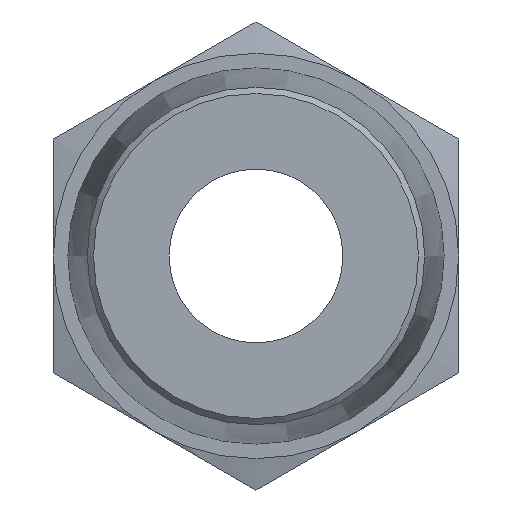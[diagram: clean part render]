
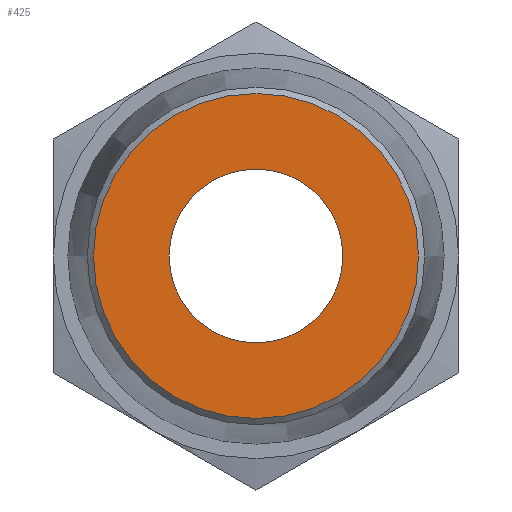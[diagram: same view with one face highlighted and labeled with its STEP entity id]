
A CAD part, front view. The second image highlights one B-rep face of the part: STEP entity #425.
In plain terms, the highlighted planar face has unit normal (0, -1, 0).
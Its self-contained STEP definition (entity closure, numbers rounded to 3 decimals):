
#43=FACE_BOUND('',#95,.T.);
#49=PLANE('',#483);
#63=FACE_OUTER_BOUND('',#94,.T.);
#94=EDGE_LOOP('',(#292));
#95=EDGE_LOOP('',(#293));
#157=CIRCLE('',#480,5.613);
#159=CIRCLE('',#484,3.);
#183=VERTEX_POINT('',#669);
#185=VERTEX_POINT('',#677);
#222=EDGE_CURVE('',#183,#183,#157,.T.);
#225=EDGE_CURVE('',#185,#185,#159,.T.);
#292=ORIENTED_EDGE('',*,*,#222,.F.);
#293=ORIENTED_EDGE('',*,*,#225,.T.);
#425=ADVANCED_FACE('',(#63,#43),#49,.T.);
#480=AXIS2_PLACEMENT_3D('',#671,#543,#544);
#483=AXIS2_PLACEMENT_3D('',#676,#550,#551);
#484=AXIS2_PLACEMENT_3D('',#678,#552,#553);
#543=DIRECTION('center_axis',(0.,1.,0.));
#544=DIRECTION('ref_axis',(-1.,0.,0.));
#550=DIRECTION('center_axis',(0.,-1.,0.));
#551=DIRECTION('ref_axis',(0.,0.,-1.));
#552=DIRECTION('center_axis',(0.,1.,0.));
#553=DIRECTION('ref_axis',(1.,0.,0.));
#669=CARTESIAN_POINT('',(5.613,-9.5,0.));
#671=CARTESIAN_POINT('Origin',(0.,-9.5,0.));
#676=CARTESIAN_POINT('Origin',(5.813,-9.5,0.));
#677=CARTESIAN_POINT('',(-3.,-9.5,0.));
#678=CARTESIAN_POINT('Origin',(0.,-9.5,0.));
